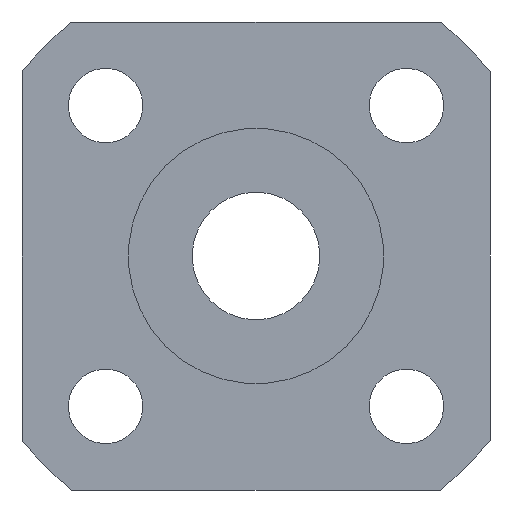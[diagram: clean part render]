
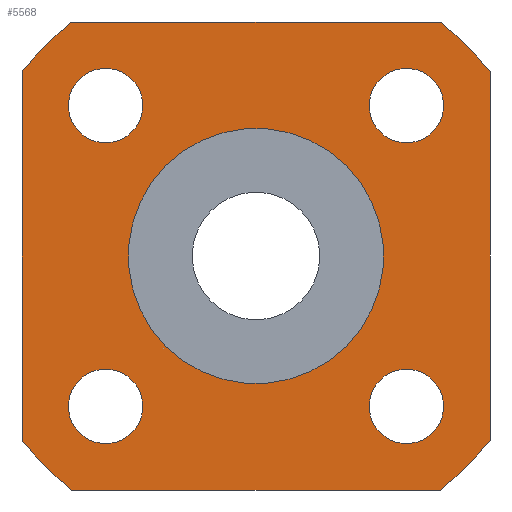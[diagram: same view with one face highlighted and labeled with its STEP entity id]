
A CAD part, left-side view. The second image highlights one B-rep face of the part: STEP entity #5568.
In plain terms, the highlighted planar face has unit normal (-1, 0, 0).
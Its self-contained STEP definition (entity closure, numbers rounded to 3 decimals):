
#111=CIRCLE('',#5911,14.);
#112=CIRCLE('',#5913,14.);
#113=CIRCLE('',#5915,14.);
#115=CIRCLE('',#5918,6.);
#117=CIRCLE('',#5923,14.);
#118=CIRCLE('',#5925,1.75);
#119=CIRCLE('',#5926,1.75);
#120=CIRCLE('',#5927,1.75);
#121=CIRCLE('',#5928,1.75);
#328=LINE('',#8790,#975);
#329=LINE('',#8791,#976);
#330=LINE('',#8792,#977);
#331=LINE('',#8793,#978);
#975=VECTOR('',#6443,1000.);
#976=VECTOR('',#6444,1000.);
#977=VECTOR('',#6445,1000.);
#978=VECTOR('',#6446,1000.);
#1698=ORIENTED_EDGE('',*,*,#3305,.T.);
#1699=ORIENTED_EDGE('',*,*,#3293,.F.);
#1700=ORIENTED_EDGE('',*,*,#3306,.T.);
#1701=ORIENTED_EDGE('',*,*,#3296,.F.);
#1702=ORIENTED_EDGE('',*,*,#3307,.T.);
#1703=ORIENTED_EDGE('',*,*,#3302,.F.);
#1704=ORIENTED_EDGE('',*,*,#3308,.T.);
#1705=ORIENTED_EDGE('',*,*,#3291,.F.);
#1706=ORIENTED_EDGE('',*,*,#3309,.F.);
#1707=ORIENTED_EDGE('',*,*,#3310,.F.);
#1708=ORIENTED_EDGE('',*,*,#3311,.F.);
#1709=ORIENTED_EDGE('',*,*,#3312,.F.);
#1710=ORIENTED_EDGE('',*,*,#3300,.F.);
#3291=EDGE_CURVE('',#4097,#4098,#111,.T.);
#3293=EDGE_CURVE('',#4099,#4100,#112,.T.);
#3296=EDGE_CURVE('',#4101,#4102,#113,.T.);
#3300=EDGE_CURVE('',#4104,#4104,#115,.F.);
#3302=EDGE_CURVE('',#4106,#4107,#117,.T.);
#3305=EDGE_CURVE('',#4097,#4100,#328,.T.);
#3306=EDGE_CURVE('',#4099,#4102,#329,.T.);
#3307=EDGE_CURVE('',#4101,#4107,#330,.T.);
#3308=EDGE_CURVE('',#4106,#4098,#331,.T.);
#3309=EDGE_CURVE('',#4108,#4108,#118,.T.);
#3310=EDGE_CURVE('',#4109,#4109,#119,.T.);
#3311=EDGE_CURVE('',#4110,#4110,#120,.T.);
#3312=EDGE_CURVE('',#4111,#4111,#121,.T.);
#4097=VERTEX_POINT('',#8758);
#4098=VERTEX_POINT('',#8760);
#4099=VERTEX_POINT('',#8764);
#4100=VERTEX_POINT('',#8765);
#4101=VERTEX_POINT('',#8770);
#4102=VERTEX_POINT('',#8771);
#4104=VERTEX_POINT('',#8778);
#4106=VERTEX_POINT('',#8785);
#4107=VERTEX_POINT('',#8786);
#4108=VERTEX_POINT('',#8795);
#4109=VERTEX_POINT('',#8797);
#4110=VERTEX_POINT('',#8799);
#4111=VERTEX_POINT('',#8801);
#4573=EDGE_LOOP('',(#1698,#1699,#1700,#1701,#1702,#1703,#1704,#1705));
#4574=EDGE_LOOP('',(#1706));
#4575=EDGE_LOOP('',(#1707));
#4576=EDGE_LOOP('',(#1708));
#4577=EDGE_LOOP('',(#1709));
#4578=EDGE_LOOP('',(#1710));
#4970=FACE_BOUND('',#4573,.T.);
#4971=FACE_BOUND('',#4574,.T.);
#4972=FACE_BOUND('',#4575,.T.);
#4973=FACE_BOUND('',#4576,.T.);
#4974=FACE_BOUND('',#4577,.T.);
#4975=FACE_BOUND('',#4578,.T.);
#5317=PLANE('',#5924);
#5568=ADVANCED_FACE('',(#4970,#4971,#4972,#4973,#4974,#4975),#5317,.F.);
#5911=AXIS2_PLACEMENT_3D('',#8759,#6408,#6409);
#5913=AXIS2_PLACEMENT_3D('',#8763,#6413,#6414);
#5915=AXIS2_PLACEMENT_3D('',#8769,#6419,#6420);
#5918=AXIS2_PLACEMENT_3D('',#8777,#6427,#6428);
#5923=AXIS2_PLACEMENT_3D('',#8784,#6437,#6438);
#5924=AXIS2_PLACEMENT_3D('',#8789,#6441,#6442);
#5925=AXIS2_PLACEMENT_3D('',#8794,#6447,#6448);
#5926=AXIS2_PLACEMENT_3D('',#8796,#6449,#6450);
#5927=AXIS2_PLACEMENT_3D('',#8798,#6451,#6452);
#5928=AXIS2_PLACEMENT_3D('',#8800,#6453,#6454);
#6408=DIRECTION('',(1.,0.,0.));
#6409=DIRECTION('',(0.,0.707,-0.707));
#6413=DIRECTION('',(1.,0.,0.));
#6414=DIRECTION('',(0.,0.707,-0.707));
#6419=DIRECTION('',(1.,0.,0.));
#6420=DIRECTION('',(0.,0.707,-0.707));
#6427=DIRECTION('',(1.,0.,0.));
#6428=DIRECTION('',(0.,0.707,-0.707));
#6437=DIRECTION('',(1.,0.,0.));
#6438=DIRECTION('',(0.,0.707,-0.707));
#6441=DIRECTION('',(1.,0.,0.));
#6442=DIRECTION('',(0.,0.707,-0.707));
#6443=DIRECTION('',(0.,0.,1.));
#6444=DIRECTION('',(0.,1.,0.));
#6445=DIRECTION('',(0.,0.,-1.));
#6446=DIRECTION('',(0.,-1.,0.));
#6447=DIRECTION('',(-1.,0.,0.));
#6448=DIRECTION('',(0.,-0.707,0.707));
#6449=DIRECTION('',(-1.,0.,0.));
#6450=DIRECTION('',(0.,-0.707,0.707));
#6451=DIRECTION('',(-1.,0.,0.));
#6452=DIRECTION('',(0.,-0.707,0.707));
#6453=DIRECTION('',(-1.,0.,0.));
#6454=DIRECTION('',(0.,-0.707,0.707));
#8758=CARTESIAN_POINT('',(4.5,-11.,-8.66));
#8759=CARTESIAN_POINT('',(4.5,0.,0.));
#8760=CARTESIAN_POINT('',(4.5,-8.66,-11.));
#8763=CARTESIAN_POINT('',(4.5,0.,0.));
#8764=CARTESIAN_POINT('',(4.5,-8.66,11.));
#8765=CARTESIAN_POINT('',(4.5,-11.,8.66));
#8769=CARTESIAN_POINT('',(4.5,0.,0.));
#8770=CARTESIAN_POINT('',(4.5,11.,8.66));
#8771=CARTESIAN_POINT('',(4.5,8.66,11.));
#8777=CARTESIAN_POINT('',(4.5,0.,0.));
#8778=CARTESIAN_POINT('',(4.5,4.243,-4.243));
#8784=CARTESIAN_POINT('',(4.5,0.,0.));
#8785=CARTESIAN_POINT('',(4.5,8.66,-11.));
#8786=CARTESIAN_POINT('',(4.5,11.,-8.66));
#8789=CARTESIAN_POINT('',(4.5,0.,0.));
#8790=CARTESIAN_POINT('',(4.5,-11.,11.));
#8791=CARTESIAN_POINT('',(4.5,11.,11.));
#8792=CARTESIAN_POINT('',(4.5,11.,-11.));
#8793=CARTESIAN_POINT('',(4.5,-11.,-11.));
#8794=CARTESIAN_POINT('',(4.5,7.071,-7.071));
#8795=CARTESIAN_POINT('',(4.5,5.834,-5.834));
#8796=CARTESIAN_POINT('',(4.5,-7.071,-7.071));
#8797=CARTESIAN_POINT('',(4.5,-8.309,-5.834));
#8798=CARTESIAN_POINT('',(4.5,-7.071,7.071));
#8799=CARTESIAN_POINT('',(4.5,-8.309,8.309));
#8800=CARTESIAN_POINT('',(4.5,7.071,7.071));
#8801=CARTESIAN_POINT('',(4.5,5.834,8.309));
